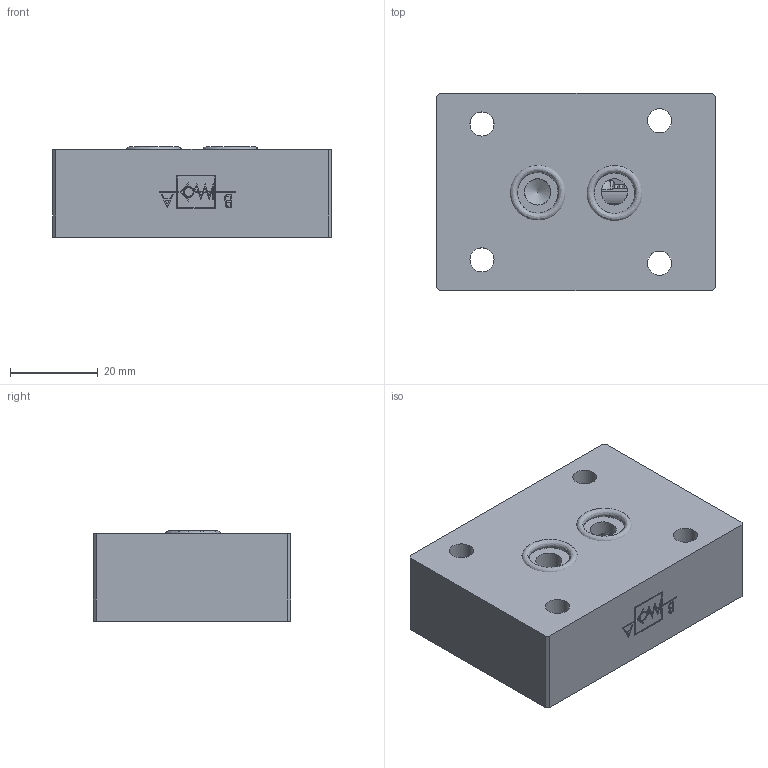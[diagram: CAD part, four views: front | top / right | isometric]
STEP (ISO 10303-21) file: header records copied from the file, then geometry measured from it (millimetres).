
FILE_DESCRIPTION (( 'STEP AP214' ), '1' );
FILE_NAME ('280-6-03.STEP', '2025-10-02T07:25:35', ( '' ), ( '' ), 'SwSTEP 2.0', 'SolidWorks 2025', '' );
FILE_SCHEMA (( 'AUTOMOTIVE_DESIGN' ));
Length unit declared in the file: millimetre
Products named in the file (8): CORPO VALVOLA 280-6.001.00-03; 280-6-03; TAPPO 280-5.021.00.1-14; OR 2043; MOLLA CILINDRICA 260-6.009.00-14_COMPRESSA; SFERA 9-32 POLLICE (7.143mm)_7,144 (9|32"); OR 108; GUIDA SFERA 260-6.011.00-14
Assembly tree (8 placements, depth 2):
  280-6-03
    OR 2043
    OR 108  x2
    TAPPO 280-5.021.00.1-14
    SFERA 9-32 POLLICE (7.143mm)_7,144 (9|32")
    GUIDA SFERA 260-6.011.00-14
    MOLLA CILINDRICA 260-6.009.00-14_COMPRESSA
    CORPO VALVOLA 280-6.001.00-03
Bounding box: 63.5 x 45 x 20.6 mm (x, y, z)
Volume: 52354.6 mm3; surface area: 17083.2 mm2
Topology: 8 solids, 8 shells, 688 faces, 1772 edges, 1150 vertices
Faces by surface type: plane 403, bspline 140, cylinder 72, cone 71, torus 1, sphere 1
Full cylindrical faces by diameter (mm): 2.05 x1, 2.5 x1, 4 x1, 5.2 x2, 5.5 x5, 6 x2, 9 x4, 11.3 x1, 11.6 x1, 11.65 x1, 12 x2, 17 x1, 18 x1
Entity records: 35473 total; most frequent: CARTESIAN_POINT 19922, ORIENTED_EDGE 3338, DIRECTION 2620, EDGE_CURVE 1669, VERTEX_POINT 1134, LINE 1082, VECTOR 1082, EDGE_LOOP 855
